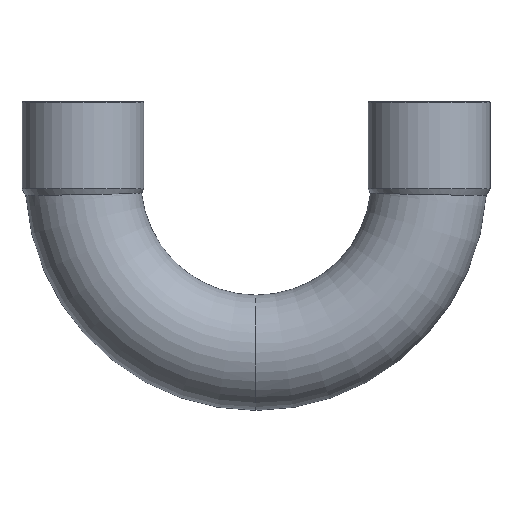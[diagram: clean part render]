
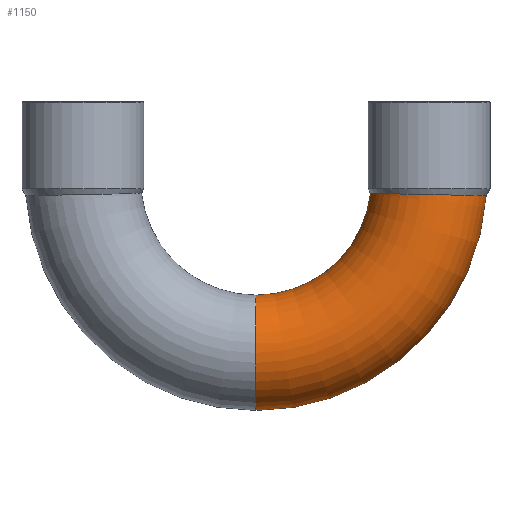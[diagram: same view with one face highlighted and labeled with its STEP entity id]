
A CAD part, front view. The second image highlights one B-rep face of the part: STEP entity #1150.
In plain terms, the highlighted toroidal (fillet/blend) face has major radius 42 mm and minor radius 14 mm.
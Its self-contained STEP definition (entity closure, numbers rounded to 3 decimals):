
#51=CARTESIAN_POINT('',(22.035,0.,-56.0));
#52=VERTEX_POINT('',#51);
#85=CARTESIAN_POINT('',(22.035,0.,-28.0));
#86=VERTEX_POINT('',#85);
#109=CARTESIAN_POINT('',(77.904,0.,-3.827));
#110=VERTEX_POINT('',#109);
#111=CARTESIAN_POINT('',(22.035,0.,0.0));
#112=DIRECTION('',(0.0,-1.0,0.0));
#113=DIRECTION('',(0.0,0.0,-1.0));
#114=AXIS2_PLACEMENT_3D('',#111,#112,#113);
#115=CIRCLE('',#114,56.0);
#116=EDGE_CURVE('',#52,#110,#115,.T.);
#119=CARTESIAN_POINT('',(49.844,0.,-3.268));
#120=VERTEX_POINT('',#119);
#121=CARTESIAN_POINT('',(22.035,0.,0.0));
#122=DIRECTION('',(0.0,1.0,0.0));
#123=DIRECTION('',(0.0,0.0,-1.0));
#124=AXIS2_PLACEMENT_3D('',#121,#122,#123);
#125=CIRCLE('',#124,28.0);
#126=EDGE_CURVE('',#120,#86,#125,.T.);
#1111=CARTESIAN_POINT('',(22.035,0.,0.0));
#1112=DIRECTION('',(0.0,-1.0,0.0));
#1113=DIRECTION('',(0.0,0.0,-1.0));
#1114=AXIS2_PLACEMENT_3D('',#1111,#1112,#1113);
#1115=TOROIDAL_SURFACE('',#1114,42.0,14.);
#1116=ORIENTED_EDGE('',*,*,#116,.T.);
#1117=CARTESIAN_POINT('',(77.904,0.,-3.827));
#1118=CARTESIAN_POINT('',(77.904,-1.031,-3.827));
#1119=CARTESIAN_POINT('',(77.79,-2.059,-3.825));
#1120=CARTESIAN_POINT('',(77.338,-4.072,-3.819));
#1121=CARTESIAN_POINT('',(77.001,-5.05,-3.814));
#1122=CARTESIAN_POINT('',(75.78,-7.631,-3.797));
#1123=CARTESIAN_POINT('',(74.685,-9.111,-3.781));
#1124=CARTESIAN_POINT('',(71.986,-11.57,-3.739));
#1125=CARTESIAN_POINT('',(70.408,-12.525,-3.714));
#1126=CARTESIAN_POINT('',(66.97,-13.778,-3.656));
#1127=CARTESIAN_POINT('',(65.144,-14.062,-3.623));
#1128=CARTESIAN_POINT('',(61.486,-13.915,-3.552));
#1129=CARTESIAN_POINT('',(59.688,-13.485,-3.515));
#1130=CARTESIAN_POINT('',(56.363,-11.961,-3.44));
#1131=CARTESIAN_POINT('',(54.866,-10.883,-3.404));
#1132=CARTESIAN_POINT('',(52.374,-8.22,-3.34));
#1133=CARTESIAN_POINT('',(51.402,-6.662,-3.313));
#1134=CARTESIAN_POINT('',(50.152,-3.375,-3.278));
#1135=CARTESIAN_POINT('',(49.844,-1.694,-3.268));
#1136=CARTESIAN_POINT('',(49.844,0.,-3.268));
#1137=B_SPLINE_CURVE_WITH_KNOTS('',3,(#1117,#1118,#1119,#1120,#1121,#1122,#1123,#1124,#1125,#1126,#1127,#1128,#1129,#1130,#1131,#1132,#1133,#1134,#1135,#1136),.UNSPECIFIED.,.F.,.U.,(4,2,2,2,2,2,2,2,2,4),(-8.833,-8.523,-8.214,-7.667,-7.119,-6.569,-6.02,-5.472,-4.926,-4.417),.UNSPECIFIED.);
#1138=EDGE_CURVE('',#110,#120,#1137,.T.);
#1139=ORIENTED_EDGE('',*,*,#1138,.T.);
#1140=ORIENTED_EDGE('',*,*,#126,.T.);
#1141=CARTESIAN_POINT('',(22.035,0.,-42.0));
#1142=DIRECTION('',(-1.0,0.0,0.0));
#1143=DIRECTION('',(0.0,0.0,-1.0));
#1144=AXIS2_PLACEMENT_3D('',#1141,#1142,#1143);
#1145=CIRCLE('',#1144,14.);
#1146=EDGE_CURVE('',#52,#86,#1145,.T.);
#1147=ORIENTED_EDGE('',*,*,#1146,.F.);
#1148=EDGE_LOOP('',(#1116,#1139,#1140,#1147));
#1149=FACE_OUTER_BOUND('',#1148,.T.);
#1150=ADVANCED_FACE('',(#1149),#1115,.T.);
